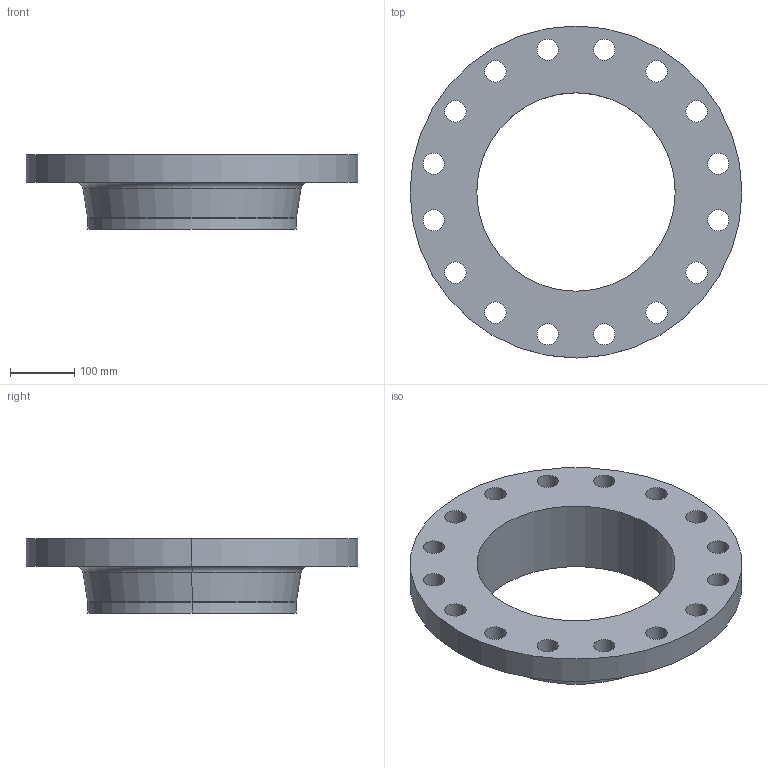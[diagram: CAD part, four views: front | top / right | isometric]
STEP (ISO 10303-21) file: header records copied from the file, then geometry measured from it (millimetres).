
FILE_DESCRIPTION (( 'STEP AP214' ), '1' );
FILE_NAME ('PN40 DN300 Type 11 - Type A Face.STEP', '2019-01-05T20:25:57', ( '' ), ( '' ), 'SwSTEP 2.0', 'SolidWorks 2019', '' );
FILE_SCHEMA (( 'AUTOMOTIVE_DESIGN' ));
Length unit declared in the file: millimetre
Products named in the file (1): PN40 DN300 Type 11 - Type A Face
Bounding box: 515 x 515 x 115 mm (x, y, z)
Volume: 5904178.8 mm3; surface area: 552792.7 mm2
Topology: 1 solids, 1 shells, 47 faces, 126 edges, 82 vertices
Faces by surface type: cylinder 38, torus 4, plane 3, cone 2
Entity records: 1620 total; most frequent: DIRECTION 308, CARTESIAN_POINT 256, ORIENTED_EDGE 252, AXIS2_PLACEMENT_3D 134, EDGE_CURVE 126, CIRCLE 86, VERTEX_POINT 82, EDGE_LOOP 82
